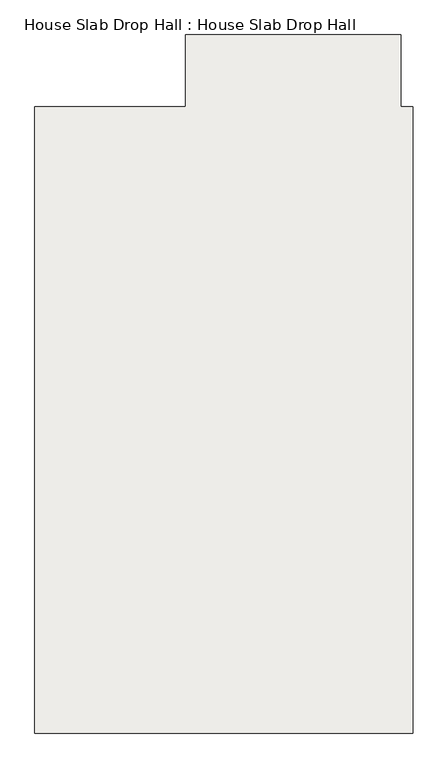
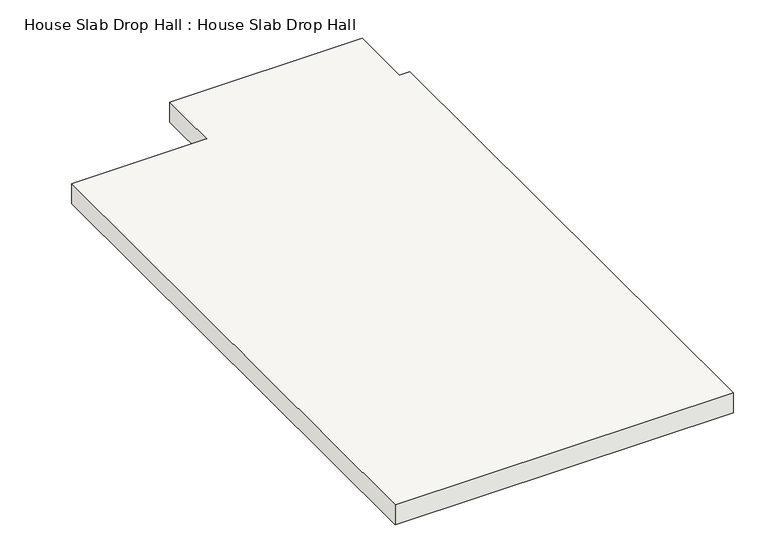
"""IFC4 building model written with IfcOpenShell, lengths in millimetres: slab geometry, House Slab Drop Hall : House Slab Drop Hall."""

from ifc_helpers import new_model, si_unit, origin, place, context, project, spatial, faceted_brep, source, transform, mapped, element, save


def house_slab_drop_hall_house_slab_drop_hall_82de9335(model_context):
    return source(origin(), model_context, "Body", "Brep", [
        faceted_brep([(-12319.9178637, 3043.7349287, -374.9476563), (-12319.9178637, 3348.5349287, -374.9476563), (-11405.5178637, 3348.5349287, -374.9476563), (-11405.5178637, 3043.7349287, -374.9476563), (-11354.7178637, 3043.7349287, -374.9476563), (-11354.7178637, 383.0849287, -374.9476563), (-12961.2678637, 383.0849287, -374.9476563), (-12961.2678637, 3043.7349287, -374.9476563), (-11405.5178637, 3043.7349287, -274.3398438), (-11405.5178637, 3208.8349287, -274.3398438), (-11405.5178637, 3348.5349287, -274.3398438), (-12319.9178637, 3348.5349287, -274.3398438), (-12319.9178637, 3208.8349287, -274.3398438), (-12319.9178637, 3043.7349287, -274.3398438), (-12961.2678637, 3043.7349287, -274.3398438), (-12961.2678637, 383.0849287, -274.3398438), (-11354.7178637, 383.0849287, -274.3398438), (-11354.7178637, 3043.7349287, -274.3398438)], [[[0, 1, 2, 3, 4, 5, 6, 7]], [[8, 9, 10, 11, 12, 13, 14, 15, 16, 17]], [[2, 10, 9, 8, 3]], [[2, 1, 11, 10]], [[0, 13, 12, 11, 1]], [[13, 0, 7, 14]], [[14, 7, 6, 15]], [[15, 6, 5, 16]], [[16, 5, 4, 17]], [[3, 8, 17, 4]]]),
    ])


if __name__ == "__main__":
    model = new_model("IFC4")
    model_context = context("Model", 3, world=origin())
    ifc_project = project(units=[si_unit("LENGTHUNIT", "METRE", prefix="MILLI")], contexts=[model_context])
    site = spatial("IfcSite", under=ifc_project)
    building = spatial("IfcBuilding", under=site)
    placement = place(None, origin())
    house_slab_drop_hall_house_slab_drop_hall_shape = house_slab_drop_hall_house_slab_drop_hall_82de9335(model_context)
    element("IfcSlab", 1, ObjectType="House Slab Drop Hall : House Slab Drop Hall", at=placement, inside=building, context=model_context, shape_type="MappedRepresentation", body=[
        mapped(house_slab_drop_hall_house_slab_drop_hall_shape, transform((0.0, 0.0, 0.0), x_axis=(1.0, 0.0, 0.0), y_axis=(0.0, 1.0, 0.0), z_axis=(0.0, 0.0, 1.0))),
    ])
    save(model, "model.ifc")
